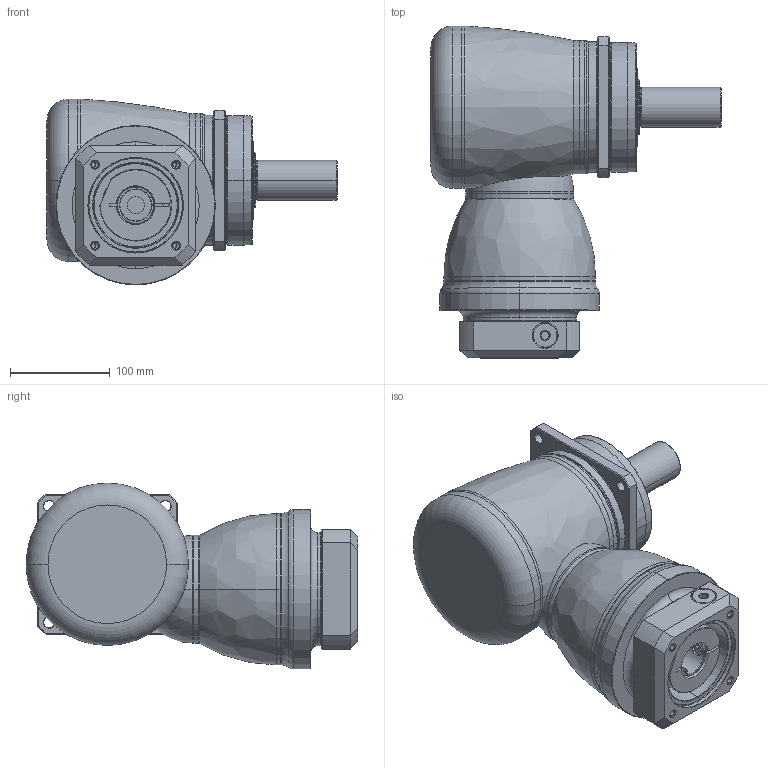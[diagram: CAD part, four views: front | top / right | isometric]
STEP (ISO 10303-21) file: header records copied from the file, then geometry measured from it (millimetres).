
FILE_DESCRIPTION((''),'2;1');
FILE_NAME('KF140_1ST_32-P0409700101_ASM','2016-06-22T',('d01943'),(''),'PRO/ENGINEER BY PARAMETRIC TECHNOLOGY CORPORATION, 2008410','PRO/ENGINEER BY PARAMETRIC TECHNOLOGY CORPORATION, 2008410','');
FILE_SCHEMA(('CONFIG_CONTROL_DESIGN'));
Length unit declared in the file: millimetre
Products named in the file (11): P1008500002; P1804500001; P0915500001; P1315500001; P1007500001; P1318500201; P0409700101; P0503700010; P0912502201; 21711418017; KF140_1ST_32-P0409700101_ASM
Assembly tree (10 placements, depth 2):
  KF140_1ST_32-P0409700101_ASM
    P1008500002
    P1804500001
    P0915500001
    P1315500001
    P1007500001
    P1318500201
    P0409700101
    P0503700010
    P0912502201
    21711418017
Bounding box: 291 x 333 x 186.5 mm (x, y, z)
Volume: 4568094.3 mm3; surface area: 511924 mm2
Topology: 11 solids, 11 shells, 436 faces, 966 edges, 569 vertices
Faces by surface type: cylinder 140, cone 116, plane 93, torus 64, bspline 21, sphere 2
Entity records: 16948 total; most frequent: CARTESIAN_POINT 7058, DIRECTION 2195, ORIENTED_EDGE 1896, EDGE_CURVE 948, AXIS2_PLACEMENT_3D 932, VERTEX_POINT 569, EDGE_LOOP 497, CIRCLE 496
